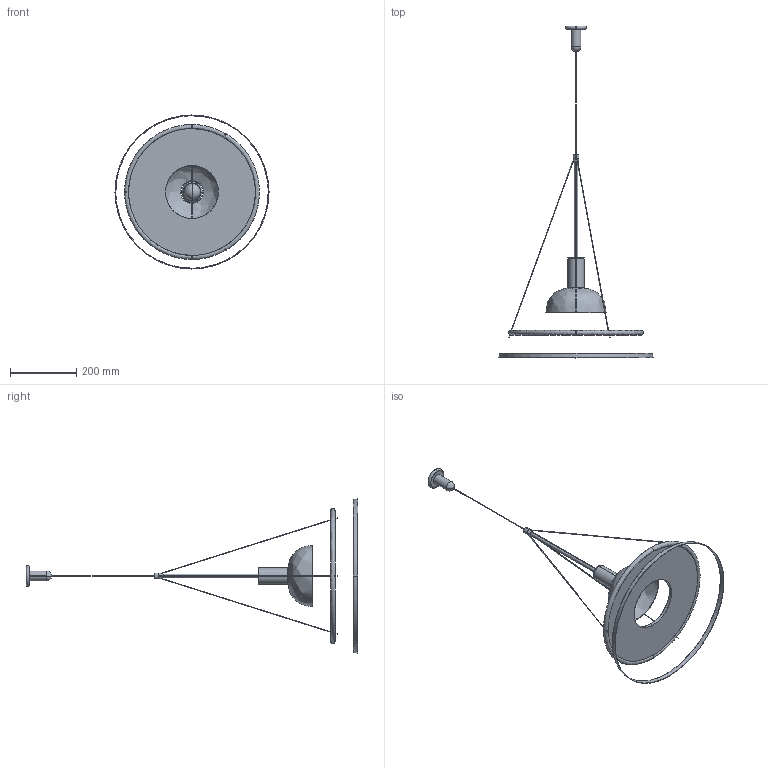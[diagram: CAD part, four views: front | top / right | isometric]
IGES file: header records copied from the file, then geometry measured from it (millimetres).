
Start section: SolidWorks IGES file using analytic representation for surfaces
Global section: file name: F:\燠隴矨\3D\2025-12\Flying Saucer Pendant Light-D40cm.IGS,15; native system: HSolidWorks 2022; preprocessor: SolidWorks 2022; author: MyPC; date: 251214.144132; units: millimetre
Bounding box: 463.88 x 999.38 x 463.88 mm (x, y, z)
Surface area: 453758.2 mm2 (no closed solid volume)
Topology: 0 solids, 0 shells, 155 faces, 2258 edges, 2254 vertices
Faces by surface type: revolution 94, bspline 61
